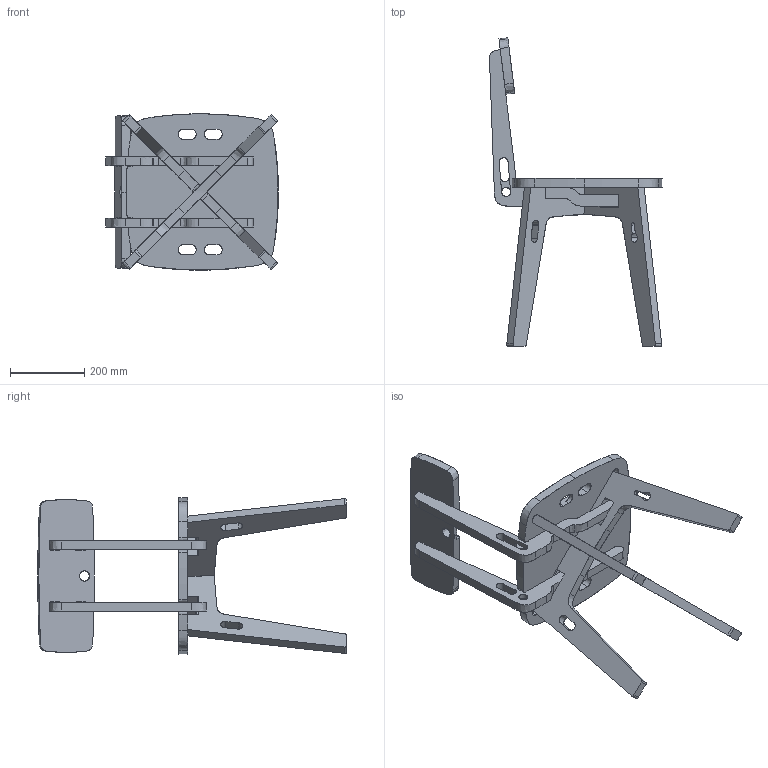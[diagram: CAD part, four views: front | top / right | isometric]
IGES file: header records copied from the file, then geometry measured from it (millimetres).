
Start section: SolidWorks IGES file using analytic representation for surfaces
Global section: file name: C:\Users\stijn\Google Drive\Projecten\Shibari Chair\3D Files for downlaod\Chair MPB v04.IGS; native system: SolidWorks 2018; preprocessor: SolidWorks 2018; author: stijn; date: 190510.222207; units: millimetre
Bounding box: 464.31 x 828.4 x 419.98 mm (x, y, z)
Surface area: 1185634.4 mm2 (no closed solid volume)
Topology: 0 solids, 0 shells, 383 faces, 5491 edges, 5491 vertices
Faces by surface type: bspline 257, revolution 126
